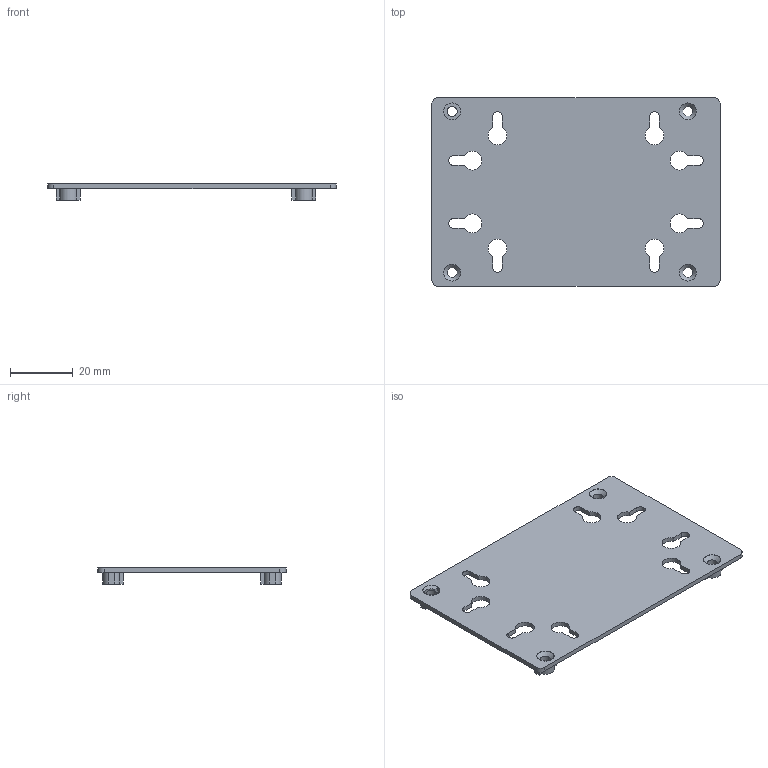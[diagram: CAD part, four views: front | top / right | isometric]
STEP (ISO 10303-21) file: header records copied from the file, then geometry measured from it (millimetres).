
FILE_DESCRIPTION(/* description */ (''),/* implementation_level */ '2;1');
FILE_NAME(/* name */ 'C:/Users/ruda/Downloads/SC01 Box v9 - plate.step',/* time_stamp */ '2022-10-18T13:58:27+02:00',/* author */ (''),/* organization */ (''),/* preprocessor_version */ 'ST-DEVELOPER v19',/* originating_system */ 'Autodesk Translation Framework v11.7.0.108',/* authorisation */ '');
FILE_SCHEMA (('AUTOMOTIVE_DESIGN { 1 0 10303 214 3 1 1 }'));
Length unit declared in the file: millimetre
Products named in the file (2): SC01 Box; Plate
Assembly tree (1 placements, depth 2):
  SC01 Box
    Plate
Bounding box: 92 x 60 x 5.2 mm (x, y, z)
Volume: 8027.1 mm3; surface area: 11639.5 mm2
Topology: 1 solids, 1 shells, 106 faces, 296 edges, 196 vertices
Faces by surface type: plane 62, cylinder 36, cone 4, torus 4
Full cylindrical faces by diameter (mm): 3.2 x4
Entity records: 3531 total; most frequent: DIRECTION 602, CARTESIAN_POINT 601, ORIENTED_EDGE 592, EDGE_CURVE 296, LINE 208, VECTOR 208, AXIS2_PLACEMENT_3D 197, VERTEX_POINT 196
